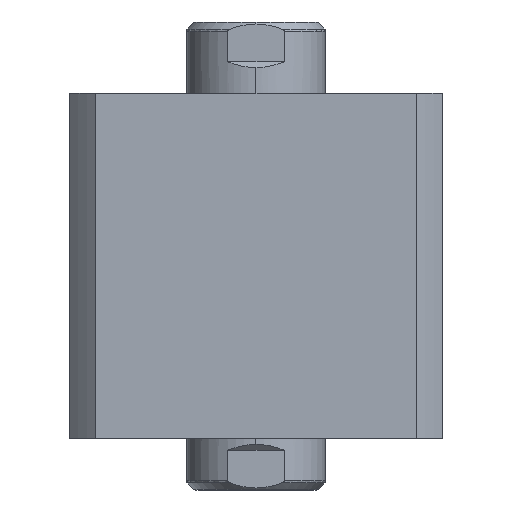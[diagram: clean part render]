
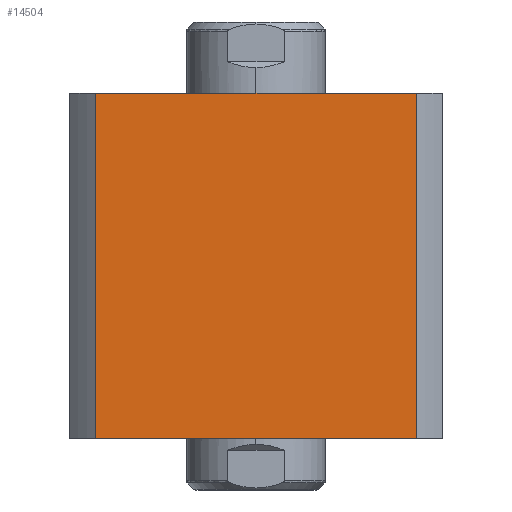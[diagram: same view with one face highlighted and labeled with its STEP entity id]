
A CAD part, left-side view. The second image highlights one B-rep face of the part: STEP entity #14504.
In plain terms, the highlighted planar face has unit normal (-1, 0, 0).
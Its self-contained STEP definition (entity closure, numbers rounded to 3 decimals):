
#596 = CARTESIAN_POINT ( 'NONE',  ( -47., 47., 87. ) ) ;
#1575 = ORIENTED_EDGE ( 'NONE', *, *, #17676, .F. ) ;
#2031 = DIRECTION ( 'NONE',  ( 0., -1., 0. ) ) ;
#2285 = VERTEX_POINT ( 'NONE', #18250 ) ;
#2363 = CARTESIAN_POINT ( 'NONE',  ( -47., 40.435, 0. ) ) ;
#2860 = EDGE_CURVE ( 'NONE', #12763, #14317, #16571, .T. ) ;
#3025 = DIRECTION ( 'NONE',  ( 1., 0., 0. ) ) ;
#3376 = ORIENTED_EDGE ( 'NONE', *, *, #4554, .F. ) ;
#3378 = VECTOR ( 'NONE', #4616, 1000. ) ;
#3846 = LINE ( 'NONE', #14601, #3378 ) ;
#3855 = CARTESIAN_POINT ( 'NONE',  ( -47., -40.435, 87. ) ) ;
#4173 = ORIENTED_EDGE ( 'NONE', *, *, #2860, .T. ) ;
#4554 = EDGE_CURVE ( 'NONE', #2285, #15618, #6508, .T. ) ;
#4616 = DIRECTION ( 'NONE',  ( 0., 0., -1. ) ) ;
#5047 = EDGE_CURVE ( 'NONE', #15618, #14317, #3846, .T. ) ;
#5549 = ORIENTED_EDGE ( 'NONE', *, *, #5047, .F. ) ;
#5861 = DIRECTION ( 'NONE',  ( 0., -1., 0. ) ) ;
#6388 = DIRECTION ( 'NONE',  ( 0., 0., 1. ) ) ;
#6508 = LINE ( 'NONE', #596, #13655 ) ;
#7287 = CARTESIAN_POINT ( 'NONE',  ( -47., 47., 0. ) ) ;
#7631 = CARTESIAN_POINT ( 'NONE',  ( -47., 40.435, 300. ) ) ;
#8687 = PLANE ( 'NONE',  #16452 ) ;
#10168 = FACE_OUTER_BOUND ( 'NONE', #12022, .T. ) ;
#11555 = CARTESIAN_POINT ( 'NONE',  ( -47., 47., 87. ) ) ;
#12022 = EDGE_LOOP ( 'NONE', ( #5549, #3376, #1575, #4173 ) ) ;
#12763 = VERTEX_POINT ( 'NONE', #2363 ) ;
#12769 = VECTOR ( 'NONE', #5861, 1000. ) ;
#12994 = DIRECTION ( 'NONE',  ( 0., 1., 0. ) ) ;
#13655 = VECTOR ( 'NONE', #2031, 1000. ) ;
#13722 = VECTOR ( 'NONE', #6388, 1000. ) ;
#14317 = VERTEX_POINT ( 'NONE', #16930 ) ;
#14504 = ADVANCED_FACE ( 'NONE', ( #10168 ), #8687, .F. ) ;
#14601 = CARTESIAN_POINT ( 'NONE',  ( -47., -40.435, 300. ) ) ;
#15618 = VERTEX_POINT ( 'NONE', #3855 ) ;
#16452 = AXIS2_PLACEMENT_3D ( 'NONE', #11555, #3025, #12994 ) ;
#16571 = LINE ( 'NONE', #7287, #12769 ) ;
#16930 = CARTESIAN_POINT ( 'NONE',  ( -47., -40.435, 0. ) ) ;
#17477 = LINE ( 'NONE', #7631, #13722 ) ;
#17676 = EDGE_CURVE ( 'NONE', #12763, #2285, #17477, .T. ) ;
#18250 = CARTESIAN_POINT ( 'NONE',  ( -47., 40.435, 87. ) ) ;
